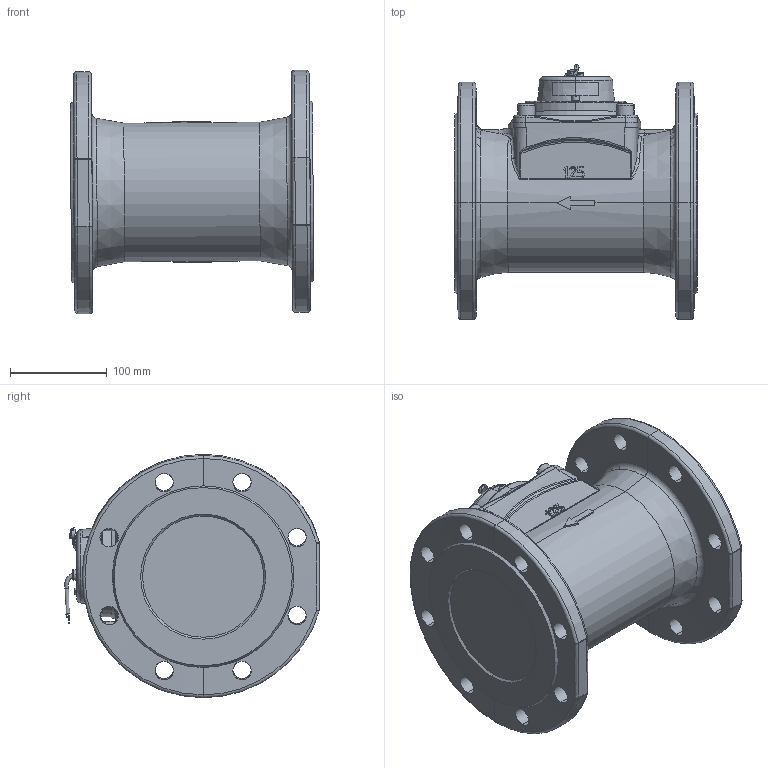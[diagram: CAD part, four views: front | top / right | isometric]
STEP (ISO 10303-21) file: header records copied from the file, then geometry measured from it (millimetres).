
FILE_DESCRIPTION (( 'STEP AP214' ), '1' );
FILE_NAME ('MWN130-125-NC.STEP', '2025-08-01T10:24:21', ( '' ), ( '' ), 'SwSTEP 2.0', 'SolidWorks 2019', '' );
FILE_SCHEMA (( 'AUTOMOTIVE_DESIGN' ));
Length unit declared in the file: millimetre
Products named in the file (1): MWN130-125-NC
Bounding box: 251.03 x 263.03 x 251.32 mm (x, y, z)
Volume: 5979489.2 mm3; surface area: 397468.7 mm2
Topology: 21 solids, 36 shells, 1445 faces, 3687 edges, 2304 vertices
Faces by surface type: plane 556, cylinder 388, bspline 192, cone 190, torus 109, sphere 10
Entity records: 70821 total; most frequent: CARTESIAN_POINT 21179, ORIENTED_EDGE 7258, DIRECTION 6646, EDGE_CURVE 3629, AXIS2_PLACEMENT_3D 2468, VERTEX_POINT 2304, VECTOR 1710, LINE 1710
